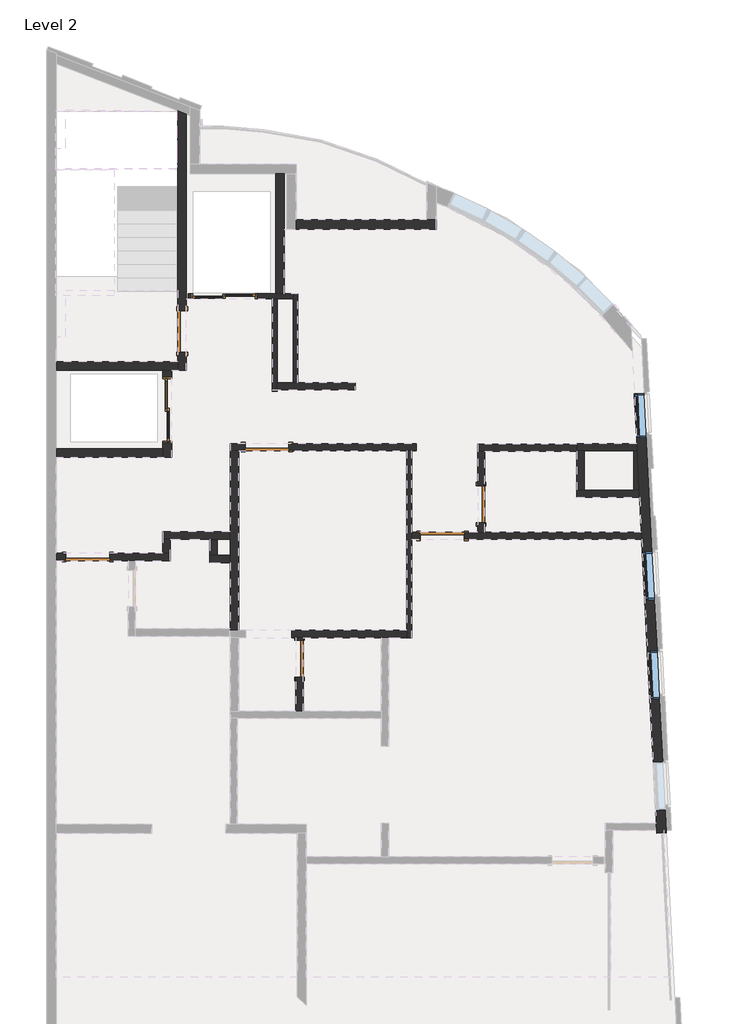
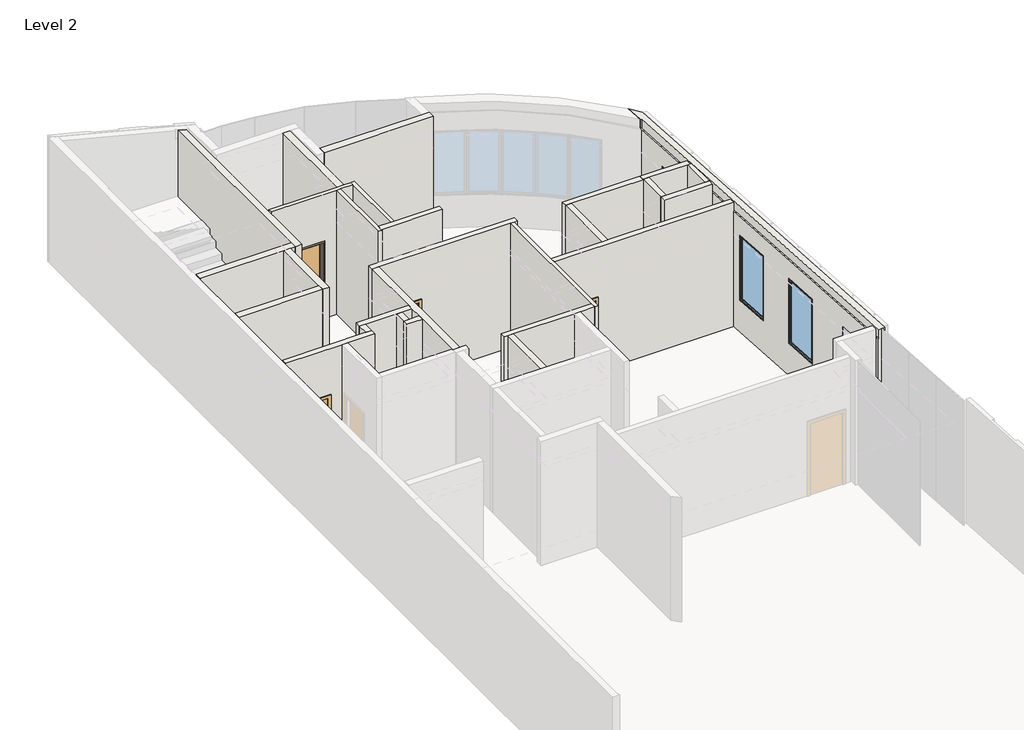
# One storey, part 3 of 5: 28 walls, 8 doors, 3 windows.
"""IFC4 building model written with IfcOpenShell, lengths in millimetres."""

from ifc_helpers import new_model, si_unit, frame, origin, place, context, project, spatial, polyline, circle_curve, outline, extrude, faceted_brep, transform, mapped, element, save
from ifc_brep_helpers import plane_surface, cylinder_surface, revolved_surface, advanced_brep
from components import m_single_flush_0762_x_2134mm_1533e4c5, m_single_flush_0762_x_2134mm_8c18b9de, m_single_flush_0864_x_2032mm_7823a673, m_single_flush_0915_x_2032mm_11c03dd0, m_single_flush_0915_x_2134mm_138fd904, sliding_door_2_panel_aus_f73f6a40, sliding_door_2_panel_aus_ee5771a8, m_fixed_0915_x_1830mm_5d6e8bc1, m_fixed_1000_x_1830mm_2_3397196e

model = new_model("IFC4")

# Units and contexts
model_context = context("Model", 3, world=origin())
ifc_project = project(units=[si_unit("LENGTHUNIT", "METRE", prefix="MILLI")], contexts=[model_context])

# Site, building, storey
site = spatial("IfcSite", under=ifc_project)
building = spatial("IfcBuilding", under=site)
storey = spatial("IfcBuildingStorey", under=building, Name="Level 2", Elevation=8000.0)

# Doors
placement = place(None, origin())
m_single_flush_0762_x_2134mm_shape = m_single_flush_0762_x_2134mm_1533e4c5(model_context)
element("IfcDoor", 1, ObjectType="M_Single-Flush : 0762 x 2134mm", at=placement, inside=storey, context=model_context, shape_type="MappedRepresentation", body=[
    mapped(m_single_flush_0762_x_2134mm_shape, transform((8794.9578779, 5730.2927029, 8000.0), x_axis=(0.0, -1.0, 0.0), y_axis=(1.0, 0.0, 0.0), z_axis=(0.0, 0.0, 1.0))),
])
m_single_flush_0762_x_2134mm_2_shape = m_single_flush_0762_x_2134mm_8c18b9de(model_context)
element("IfcDoor", 2, ObjectType="M_Single-Flush : 0762 x 2134mm", at=placement, inside=storey, context=model_context, shape_type="MappedRepresentation", body=[
    mapped(m_single_flush_0762_x_2134mm_2_shape, transform((5014.9578779, 2515.8778064, 8000.0), x_axis=(0.0, 1.0, 0.0), y_axis=(-1.0, 0.0, 0.0), z_axis=(0.0, 0.0, 1.0))),
])
m_single_flush_0864_x_2032mm_shape = m_single_flush_0864_x_2032mm_7823a673(model_context)
element("IfcDoor", 3, ObjectType="M_Single-Flush : 0864 x 2032mm", at=placement, inside=storey, context=model_context, shape_type="MappedRepresentation", body=[
    mapped(m_single_flush_0864_x_2032mm_shape, transform((2571.8607589, 9328.8748746, 8000.0), x_axis=(0.0, -1.0, 0.0), y_axis=(1.0, 0.0, 0.0), z_axis=(0.0, 0.0, 1.0))),
])
m_single_flush_0915_x_2032mm_shape = m_single_flush_0915_x_2032mm_11c03dd0(model_context)
element("IfcDoor", 4, ObjectType="M_Single-Flush : 0915 x 2032mm", at=placement, inside=storey, context=model_context, shape_type="MappedRepresentation", body=[
    mapped(m_single_flush_0915_x_2032mm_shape, transform((7987.4578779, 5074.2927029, 8000.0), x_axis=(-1.0, 0.0, 0.0), y_axis=(0.0, -1.0, 0.0), z_axis=(0.0, 0.0, 1.0))),
])
m_single_flush_0915_x_2134mm_shape = m_single_flush_0915_x_2134mm_138fd904(model_context)
element("IfcDoor", 5, ObjectType="M_Single-Flush : 0915 x 2134mm", at=placement, inside=storey, context=model_context, shape_type="MappedRepresentation", body=[
    mapped(m_single_flush_0915_x_2134mm_shape, transform((607.4578696, 4631.8830582, 8000.0), x_axis=(-1.0, 0.0, 0.0), y_axis=(0.0, -1.0, 0.0), z_axis=(0.0, 0.0, 1.0))),
])
element("IfcDoor", 6, ObjectType="M_Single-Flush : 0915 x 2134mm", at=placement, inside=storey, context=model_context, shape_type="MappedRepresentation", body=[
    mapped(m_single_flush_0915_x_2134mm_shape, transform((4337.4578779, 6919.2927825, 8000.0), x_axis=(-1.0, 0.0, 0.0), y_axis=(0.0, -1.0, 0.0), z_axis=(0.0, 0.0, 1.0))),
])
sliding_door_2_panel_aus_shape = sliding_door_2_panel_aus_f73f6a40(model_context)
element("IfcDoor", 7, ObjectType="Sliding Door - 2 Panel (AUS) : elavator door", at=placement, inside=storey, context=model_context, shape_type="MappedRepresentation", body=[
    mapped(sliding_door_2_panel_aus_shape, transform((2260.0654712, 7782.6328884, 8000.0), x_axis=(0.0, -1.0, 0.0), y_axis=(1.0, 0.0, 0.0), z_axis=(0.0, 0.0, 1.0))),
])
sliding_door_2_panel_aus_2_shape = sliding_door_2_panel_aus_ee5771a8(model_context)
element("IfcDoor", 8, ObjectType="Sliding Door - 2 Panel (AUS) : elavator door", at=placement, inside=storey, context=model_context, shape_type="MappedRepresentation", body=[
    mapped(sliding_door_2_panel_aus_2_shape, transform((3525.434997, 10056.8748959, 8000.0), x_axis=(-1.0, 0.0, 0.0), y_axis=(0.0, -1.0, 0.0), z_axis=(0.0, 0.0, 1.0))),
])

# Walls
element("IfcWall", 9, ObjectType="Generic - 15cm-granit&gypsum", at=placement, inside=storey, context=model_context, shape_type="SweptSolid", body=[
    extrude(outline(polyline([(5349.2927029, 10134.0), (5349.2927029, 8000.0), (5149.2927029, 8000.0), (5149.2927029, 11500.0), (6830.3684627, 11500.0), (6830.3684627, 8000.0), (6111.2927029, 8000.0), (6111.2927029, 10134.0), (5349.2927029, 10134.0)])), frame((8719.9578779, 0.0, 0.0), z_axis=(1.0, 0.0, 0.0), x_axis=(0.0, 1.0, 0.0)), (0.0, 0.0, 1.0), 150.0),
])
element("IfcWall", 10, ObjectType="Generic - 15cm-gypsu-2boith", at=placement, inside=storey, context=model_context, shape_type="Brep", body=[
    faceted_brep([(12034.2942913, 6994.2927825, 8000.0), (10782.6929286, 6994.2927825, 8000.0), (10782.6929286, 6994.2927825, 11500.0), (12034.2942913, 6994.2927825, 11500.0), (12041.9294162, 6844.2927825, 8000.0), (12041.9294162, 6844.2927825, 11500.0), (11974.9265269, 6844.2927825, 11500.0), (10938.049349, 6844.2927825, 11500.0), (10788.049349, 6844.2927825, 11500.0), (10782.6929286, 6844.2927825, 11500.0), (10782.6929286, 6844.2927825, 8000.0), (10788.049349, 6844.2927825, 8000.0), (10938.049349, 6844.2927825, 8000.0), (11974.9265269, 6844.2927825, 8000.0), (10782.6929286, 6980.3684627, 8000.0), (10782.6929286, 6980.3684627, 11500.0)], [[[0, 1, 2, 3]], [[4, 5, 6, 7, 8, 9, 10, 11, 12, 13]], [[1, 0, 4, 13, 12, 11, 10, 14]], [[2, 1, 14, 10, 9, 15]], [[3, 2, 15, 9, 8, 7, 6, 5]], [[0, 3, 5, 4]]]),
])
element("IfcWall", 11, ObjectType="Generic - 15cm-granit&gypsum", at=placement, inside=storey, context=model_context, shape_type="Brep", body=[
    faceted_brep([(7529.9578779, 5149.2927029, 10032.0), (7529.9578779, 5149.2927029, 8000.0), (7349.9578779, 5149.2927029, 8000.0), (7349.9578779, 5149.2927029, 11500.0), (8719.9578779, 5149.2927029, 11500.0), (8869.9578779, 5149.2927029, 11500.0), (12128.2063311, 5149.2927029, 11500.0), (12128.2063311, 5149.2927029, 8000.0), (8869.9578779, 5149.2927029, 8000.0), (8719.9578779, 5149.2927029, 8000.0), (8444.9578779, 5149.2927029, 8000.0), (8444.9578779, 5149.2927029, 10032.0), (7349.9578779, 4999.2927029, 8000.0), (7529.9578779, 4999.2927029, 8000.0), (7529.9578779, 4999.2927029, 10032.0), (8444.9578779, 4999.2927029, 10032.0), (8444.9578779, 4999.2927029, 8000.0), (12135.8414559, 4999.2927029, 8000.0), (12135.8414559, 4999.2927029, 11500.0), (7349.9578779, 4999.2927029, 11500.0)], [[[0, 1, 2, 3, 4, 5, 6, 7, 8, 9, 10, 11]], [[12, 13, 14, 15, 16, 17, 18, 19]], [[2, 1, 13, 12]], [[10, 9, 8, 7, 17, 16]], [[6, 5, 4, 3, 19, 18]], [[7, 6, 18, 17]], [[3, 2, 12, 19]], [[14, 13, 1, 0]], [[15, 14, 0, 11]], [[16, 15, 11, 10]]]),
])
element("IfcWall", 12, ObjectType="Generic - 10cm-gypsu-2boith", at=placement, inside=storey, context=model_context, shape_type="Brep", body=[
    faceted_brep([(7249.9578779, 6844.2927825, 8000.0), (7249.9578779, 3106.8778064, 8000.0), (7249.9578779, 2956.8778064, 8000.0), (7249.9578779, 2956.8778064, 11500.0), (7249.9578779, 3106.8778064, 11500.0), (7249.9578779, 6844.2927825, 11500.0), (7349.9578779, 6844.2927825, 8000.0), (7349.9578779, 6844.2927825, 11500.0), (7349.9578779, 5149.2927029, 11500.0), (7349.9578779, 4999.2927029, 11500.0), (7349.9578779, 2956.8778064, 11500.0), (7349.9578779, 2956.8778064, 8000.0), (7349.9578779, 4999.2927029, 8000.0), (7349.9578779, 5149.2927029, 8000.0)], [[[0, 1, 2, 3, 4, 5]], [[6, 7, 8, 9, 10, 11, 12, 13]], [[2, 1, 0, 6, 13, 12, 11]], [[5, 4, 3, 10, 9, 8, 7]], [[3, 2, 11, 10]], [[0, 5, 7, 6]]]),
])
element("IfcWall", 13, ObjectType="Generic - 15cm-granit&gypsum", at=placement, inside=storey, context=model_context, shape_type="Brep", body=[
    faceted_brep([(7249.9578779, 3106.8778064, 8000.0), (4849.9578779, 3106.8778064, 8000.0), (4849.9578779, 3106.8778064, 11500.0), (7249.9578779, 3106.8778064, 11500.0), (7249.9578779, 2956.8778064, 8000.0), (7249.9578779, 2956.8778064, 11500.0), (6869.9578779, 2956.8778064, 11500.0), (6719.9578779, 2956.8778064, 11500.0), (5089.9578779, 2956.8778064, 11500.0), (4939.9578779, 2956.8778064, 11500.0), (4849.9578779, 2956.8778064, 11500.0), (4849.9578779, 2956.8778064, 8000.0), (4939.9578779, 2956.8778064, 8000.0), (5089.9578779, 2956.8778064, 8000.0), (6719.9578779, 2956.8778064, 8000.0), (6869.9578779, 2956.8778064, 8000.0)], [[[0, 1, 2, 3]], [[4, 5, 6, 7, 8, 9, 10, 11, 12, 13, 14, 15]], [[1, 0, 4, 15, 14, 13, 12, 11]], [[2, 1, 11, 10]], [[3, 2, 10, 9, 8, 7, 6, 5]], [[0, 3, 5, 4]]]),
])
element("IfcWall", 14, ObjectType="Generic - 18cm-gypsu-2boith 2", at=placement, inside=storey, context=model_context, shape_type="Brep", body=[
    faceted_brep([(3569.9578779, 6844.2927825, 8000.0), (3569.9578779, 5156.8860701, 8000.0), (3569.9578779, 5006.8860701, 8000.0), (3569.9578779, 4666.8864855, 8000.0), (3569.9578779, 4516.8864855, 8000.0), (3569.9578779, 3106.8778064, 8000.0), (3569.9578779, 3106.8778064, 11500.0), (3569.9578779, 4516.8864855, 11500.0), (3569.9578779, 4666.8864855, 11500.0), (3569.9578779, 5006.8860701, 11500.0), (3569.9578779, 5156.8860701, 11500.0), (3569.9578779, 6844.2927825, 11500.0), (3749.9578779, 6844.2927825, 8000.0), (3749.9578779, 6844.2927825, 11500.0), (3749.9578779, 3106.8778064, 11500.0), (3749.9578779, 3106.8778064, 8000.0)], [[[0, 1, 2, 3, 4, 5, 6, 7, 8, 9, 10, 11]], [[12, 13, 14, 15]], [[5, 4, 3, 2, 1, 0, 12, 15]], [[11, 10, 9, 8, 7, 6, 14, 13]], [[6, 5, 15, 14]], [[0, 11, 13, 12]]]),
])
element("IfcWall", 15, ObjectType="Generic - 15cm-gypsu-2boith", at=placement, inside=storey, context=model_context, shape_type="Brep", body=[
    faceted_brep([(4549.2779066, 8112.262158, 8000.0), (6174.9402277, 8112.262158, 8000.0), (6174.9402277, 8112.262158, 11500.0), (4549.2779066, 8112.262158, 11500.0), (4549.2779066, 8262.262158, 8000.0), (4549.2779066, 8262.262158, 11500.0), (4879.9402277, 8262.262158, 11500.0), (4979.9402277, 8262.262158, 11500.0), (6174.9402277, 8262.262158, 11500.0), (6174.9402277, 8262.262158, 8000.0), (4979.9402277, 8262.262158, 8000.0), (4879.9402277, 8262.262158, 8000.0)], [[[0, 1, 2, 3]], [[4, 5, 6, 7, 8, 9, 10, 11]], [[1, 0, 4, 11, 10, 9]], [[2, 1, 9, 8]], [[3, 2, 8, 7, 6, 5]], [[0, 3, 5, 4]]]),
])
element("IfcWall", 16, ObjectType="Generic - 10cm-gypsu-2boith", at=placement, inside=storey, context=model_context, shape_type="Brep", body=[
    faceted_brep([(4549.2779066, 8082.262158, 8000.0), (4549.2779066, 8112.262158, 8000.0), (4549.2779066, 8262.262158, 8000.0), (4549.2779066, 10006.8748959, 8000.0), (4549.2779066, 10006.8748959, 11500.0), (4549.2779066, 8262.262158, 11500.0), (4549.2779066, 8112.262158, 11500.0), (4549.2779066, 8082.262158, 11500.0), (4449.2779066, 8082.262158, 8000.0), (4449.2779066, 8082.262158, 11500.0), (4449.2779066, 10006.8748959, 11500.0), (4449.2779066, 10006.8748959, 8000.0)], [[[0, 1, 2, 3, 4, 5, 6, 7]], [[8, 9, 10, 11]], [[3, 2, 1, 0, 8, 11]], [[7, 6, 5, 4, 10, 9]], [[0, 7, 9, 8]], [[4, 3, 11, 10]]]),
])
element("IfcWall", 17, ObjectType="Generic - 10cm-gypsu-2boith", at=placement, inside=storey, context=model_context, shape_type="Brep", body=[
    faceted_brep([(4879.9402277, 10106.8748959, 8000.0), (4879.9402277, 10006.8748959, 8000.0), (4879.9402277, 8262.262158, 8000.0), (4879.9402277, 8262.262158, 11500.0), (4879.9402277, 10006.8748959, 11500.0), (4879.9402277, 10106.8748959, 11500.0), (4979.9402277, 10106.8748959, 8000.0), (4979.9402277, 10106.8748959, 11500.0), (4979.9402277, 8262.262158, 11500.0), (4979.9402277, 8262.262158, 8000.0)], [[[0, 1, 2, 3, 4, 5]], [[6, 7, 8, 9]], [[2, 1, 0, 6, 9]], [[5, 4, 3, 8, 7]], [[3, 2, 9, 8]], [[0, 5, 7, 6]]]),
])
element("IfcWall", 18, ObjectType="Generic - 10cm-gypsu-2boith", at=placement, inside=storey, context=model_context, shape_type="Brep", body=[
    faceted_brep([(2699.9587442, 10106.8748959, 8000.0), (2699.9587442, 10106.8748959, 11500.0), (4519.9587688, 10106.8748959, 11500.0), (4699.9587688, 10106.8748959, 11500.0), (4879.9402277, 10106.8748959, 11500.0), (4879.9402277, 10106.8748959, 8000.0), (4699.9587688, 10106.8748959, 8000.0), (4519.9587688, 10106.8748959, 8000.0), (4129.6769958, 10106.8748959, 8000.0), (4129.6769958, 10106.8748959, 10183.0), (2749.6769958, 10106.8748959, 10183.0), (2749.6769958, 10106.8748959, 8000.0), (2699.9587442, 10006.8748959, 11500.0), (2699.9587442, 10006.8748959, 8000.0), (2749.6769958, 10006.8748959, 8000.0), (2749.6769958, 10006.8748959, 10183.0), (4129.6769958, 10006.8748959, 10183.0), (4129.6769958, 10006.8748959, 8000.0), (4449.2779066, 10006.8748959, 8000.0), (4549.2779066, 10006.8748959, 8000.0), (4879.9402277, 10006.8748959, 8000.0), (4879.9402277, 10006.8748959, 11500.0), (4549.2779066, 10006.8748959, 11500.0), (4449.2779066, 10006.8748959, 11500.0)], [[[0, 1, 2, 3, 4, 5, 6, 7, 8, 9, 10, 11]], [[12, 13, 14, 15, 16, 17, 18, 19, 20, 21, 22, 23]], [[13, 0, 11, 14]], [[5, 20, 19, 18, 17, 8, 7, 6]], [[1, 0, 13, 12]], [[4, 3, 2, 1, 12, 23, 22, 21]], [[5, 4, 21, 20]], [[16, 9, 8, 17]], [[9, 16, 15, 10]], [[10, 15, 14, 11]]]),
])
element("IfcWall", 19, ObjectType="Generic - 18cm-gypsu-2boith 2", at=placement, inside=storey, context=model_context, shape_type="Brep", body=[
    faceted_brep([(2661.8607589, 8516.8748746, 8000.0), (2661.8607589, 8896.8748746, 8000.0), (2661.8607589, 8896.8748746, 10032.0), (2661.8607589, 9760.8748746, 10032.0), (2661.8607589, 9760.8748746, 8000.0), (2661.8607589, 13848.9694672, 8000.0), (2661.8607589, 13848.9694672, 11500.0), (2661.8607589, 8516.8748746, 11500.0), (2481.8607589, 8896.8748746, 10032.0), (2481.8607589, 8896.8748746, 8000.0), (2481.8607589, 8696.8748746, 8000.0), (2481.8607589, 8516.8748746, 8000.0), (2481.8607589, 8516.8748746, 11500.0), (2481.8607589, 8696.8748746, 11500.0), (2481.8607589, 13918.8001868, 11500.0), (2481.8607589, 13918.8001868, 8000.0), (2481.8607589, 9760.8748746, 8000.0), (2481.8607589, 9760.8748746, 10032.0)], [[[0, 1, 2, 3, 4, 5, 6, 7]], [[8, 9, 10, 11, 12, 13, 14, 15, 16, 17]], [[16, 15, 5, 4]], [[11, 10, 9, 1, 0]], [[7, 6, 14, 13, 12]], [[6, 5, 15, 14]], [[0, 7, 12, 11]], [[2, 1, 9, 8]], [[3, 2, 8, 17]], [[4, 3, 17, 16]]]),
])
element("IfcWall", 20, ObjectType="Generic - 18cm-gypsu-2boith 2", at=placement, inside=storey, context=model_context, shape_type="SweptSolid", body=[
    extrude(outline(polyline([(-50.0421304, 8696.8748746), (2481.8607589, 8696.8748746), (2481.8607589, 8516.8748746), (-50.0421304, 8516.8748746), (-50.0421304, 8696.8748746)])), frame((0.0, 0.0, 8000.0), z_axis=(0.0, 0.0, 1.0), x_axis=(1.0, 0.0, 0.0)), (0.0, 0.0, 1.0), 3500.0),
])
element("IfcWall", 21, ObjectType="Generic - 18cm-gypsu-2boith 2", at=placement, inside=storey, context=model_context, shape_type="Brep", body=[
    faceted_brep([(2170.0654712, 6706.8748838, 11500.0), (2170.0654712, 6886.8748838, 11500.0), (2170.0654712, 8506.8748906, 11500.0), (2170.0654712, 8506.8748906, 8000.0), (2170.0654712, 8386.8748872, 8000.0), (2170.0654712, 8386.8748872, 10183.0), (2170.0654712, 7006.8748872, 10183.0), (2170.0654712, 7006.8748872, 8000.0), (2170.0654712, 6886.8748838, 8000.0), (2170.0654712, 6706.8748838, 8000.0), (2350.0654712, 8506.8748906, 11500.0), (2350.0654712, 6706.8748838, 11500.0), (2350.0654712, 6706.8748838, 8000.0), (2350.0654712, 7006.8748872, 8000.0), (2350.0654712, 7006.8748872, 10183.0), (2350.0654712, 8386.8748872, 10183.0), (2350.0654712, 8386.8748872, 8000.0), (2350.0654712, 8506.8748906, 8000.0)], [[[0, 1, 2, 3, 4, 5, 6, 7, 8, 9]], [[10, 11, 12, 13, 14, 15, 16, 17]], [[3, 17, 16, 4]], [[12, 9, 8, 7, 13]], [[2, 1, 0, 11, 10]], [[3, 2, 10, 17]], [[0, 9, 12, 11]], [[15, 5, 4, 16]], [[5, 15, 14, 6]], [[6, 14, 13, 7]]]),
])
element("IfcWall", 22, ObjectType="Generic - 18cm-gypsu-2boith 2", at=placement, inside=storey, context=model_context, shape_type="SweptSolid", body=[
    extrude(outline(polyline([(-50.0421304, 6886.8748838), (2170.0654712, 6886.8748838), (2170.0654712, 6706.8748838), (-50.0421304, 6706.8748838), (-50.0421304, 6886.8748838)])), frame((0.0, 0.0, 8000.0), z_axis=(0.0, 0.0, 1.0), x_axis=(1.0, 0.0, 0.0)), (0.0, 0.0, 1.0), 3500.0),
])
element("IfcWall", 23, ObjectType="Generic - 18cm-gypsu-2boith 2", at=placement, inside=storey, context=model_context, shape_type="SweptSolid", body=[
    extrude(outline(polyline([(4519.9587688, 10106.8748959), (4519.9587688, 12611.9409286), (4699.9587688, 12611.9409286), (4699.9587688, 10106.8748959), (4519.9587688, 10106.8748959)])), frame((0.0, 0.0, 8000.0), z_axis=(0.0, 0.0, 1.0), x_axis=(1.0, 0.0, 0.0)), (0.0, 0.0, 1.0), 3500.0),
])
element("IfcWall", 24, ObjectType="Generic - 15cm-granit&gypsum", at=placement, inside=storey, context=model_context, shape_type="Brep", body=[
    faceted_brep([(12077.3702251, 6025.0705769, 8000.0), (12074.9265269, 6025.0705769, 8000.0), (11974.9265269, 6025.0705769, 8000.0), (10938.049349, 6025.0705769, 8000.0), (10788.049349, 6025.0705769, 8000.0), (10788.049349, 6025.0705769, 11500.0), (10938.049349, 6025.0705769, 11500.0), (11974.9265269, 6025.0705769, 11500.0), (12074.9265269, 6025.0705769, 11500.0), (12077.3702251, 6025.0705769, 11500.0), (12077.3702251, 5875.0705769, 8000.0), (12077.3702251, 5875.0705769, 11500.0), (10788.049349, 5875.0705769, 11500.0), (10788.049349, 5875.0705769, 8000.0)], [[[0, 1, 2, 3, 4, 5, 6, 7, 8, 9]], [[10, 11, 12, 13]], [[4, 3, 2, 1, 0, 10, 13]], [[9, 8, 7, 6, 5, 12, 11]], [[0, 9, 11, 10]], [[5, 4, 13, 12]]]),
])
element("IfcWall", 25, ObjectType="Generic - 15cm-granit&gypsum", at=placement, inside=storey, context=model_context, shape_type="SweptSolid", body=[
    extrude(outline(polyline([(10938.049349, 6844.2927825), (10938.049349, 6025.0705769), (10788.049349, 6025.0705769), (10788.049349, 6844.2927825), (10938.049349, 6844.2927825)])), frame((0.0, 0.0, 8000.0), z_axis=(0.0, 0.0, 1.0), x_axis=(1.0, 0.0, 0.0)), (0.0, 0.0, 1.0), 3500.0),
])
element("IfcWall", 26, ObjectType="Generic - 10cm-gypsu-2boith", at=placement, inside=storey, context=model_context, shape_type="Brep", body=[
    faceted_brep([(12074.9265269, 6025.0705769, 8000.0), (12074.9265269, 6844.2927825, 8000.0), (12074.9265269, 6844.2927825, 11500.0), (12074.9265269, 6025.0705769, 11500.0), (11974.9265269, 6025.0705769, 8000.0), (11974.9265269, 6025.0705769, 11500.0), (11974.9265269, 6844.2927825, 11500.0), (11974.9265269, 6844.2927825, 8000.0), (12041.9294162, 6844.2927825, 8000.0), (12041.9294162, 6844.2927825, 11500.0)], [[[0, 1, 2, 3]], [[4, 5, 6, 7]], [[1, 0, 4, 7, 8]], [[3, 2, 9, 6, 5]], [[0, 3, 5, 4]], [[2, 1, 8, 7, 6, 9]]]),
])
element("IfcWall", 27, ObjectType="Generic - 15cm-granit&gypsum", at=placement, inside=storey, context=model_context, shape_type="SweptSolid", body=[
    extrude(outline(polyline([(2956.8778064, 8000.0), (2896.8778064, 8000.0), (2896.8778064, 10134.0), (2134.8778064, 10134.0), (2134.8778064, 8000.0), (1426.8778064, 8000.0), (1426.8778064, 11500.0), (2956.8778064, 11500.0), (2956.8778064, 8000.0)])), frame((4939.9578779, 0.0, 0.0), z_axis=(1.0, 0.0, 0.0), x_axis=(0.0, 1.0, 0.0)), (0.0, 0.0, 1.0), 150.0),
])
element("IfcWall", 28, ObjectType="Generic - 15cm-granit&gypsum", at=placement, inside=storey, context=model_context, shape_type="Brep", body=[
    faceted_brep([(-50.0421304, 4556.8830582, 8000.0), (149.9578696, 4556.8830582, 8000.0), (149.9578696, 4556.8830582, 10134.0), (1064.9578696, 4556.8830582, 10134.0), (1064.9578696, 4556.8830582, 8000.0), (1449.9578776, 4556.8830582, 8000.0), (1599.9578776, 4556.8830582, 8000.0), (2319.9578779, 4556.8830582, 8000.0), (2319.9578779, 4556.8830582, 11500.0), (1599.9578776, 4556.8830582, 11500.0), (1449.9578776, 4556.8830582, 11500.0), (-50.0421304, 4556.8830582, 11500.0), (149.9578696, 4706.8830582, 10134.0), (149.9578696, 4706.8830582, 8000.0), (-50.0421304, 4706.8830582, 8000.0), (-50.0421304, 4706.8830582, 11500.0), (2169.9578779, 4706.8830582, 11500.0), (2319.9578779, 4706.8830582, 11500.0), (2319.9578779, 4706.8830582, 8000.0), (2169.9578779, 4706.8830582, 8000.0), (1064.9578696, 4706.8830582, 8000.0), (1064.9578696, 4706.8830582, 10134.0)], [[[0, 1, 2, 3, 4, 5, 6, 7, 8, 9, 10, 11]], [[12, 13, 14, 15, 16, 17, 18, 19, 20, 21]], [[14, 13, 1, 0]], [[20, 19, 18, 7, 6, 5, 4]], [[11, 10, 9, 8, 17, 16, 15]], [[0, 11, 15, 14]], [[8, 7, 18, 17]], [[2, 1, 13, 12]], [[3, 2, 12, 21]], [[4, 3, 21, 20]]]),
])
element("IfcWall", 29, ObjectType="Generic - 15cm-granit&gypsum", at=placement, inside=storey, context=model_context, shape_type="Brep", body=[
    faceted_brep([(2169.9578779, 5006.8860701, 8000.0), (2319.9578779, 5006.8860701, 8000.0), (3569.9578779, 5006.8860701, 8000.0), (3569.9578779, 5006.8860701, 11500.0), (2319.9578779, 5006.8860701, 11500.0), (2169.9578779, 5006.8860701, 11500.0), (2169.9578779, 5156.8860701, 8000.0), (2169.9578779, 5156.8860701, 11500.0), (3569.9578779, 5156.8860701, 11500.0), (3569.9578779, 5156.8860701, 8000.0)], [[[0, 1, 2, 3, 4, 5]], [[6, 7, 8, 9]], [[2, 1, 0, 6, 9]], [[5, 4, 3, 8, 7]], [[0, 5, 7, 6]], [[3, 2, 9, 8]]]),
])
element("IfcWall", 30, ObjectType="Generic - 15cm-granit&gypsum", at=placement, inside=storey, context=model_context, shape_type="SweptSolid", body=[
    extrude(outline(polyline([(2319.9578779, 5006.8860701), (2319.9578779, 4706.8830582), (2169.9578779, 4706.8830582), (2169.9578779, 5006.8860701), (2319.9578779, 5006.8860701)])), frame((0.0, 0.0, 8000.0), z_axis=(0.0, 0.0, 1.0), x_axis=(1.0, 0.0, 0.0)), (0.0, 0.0, 1.0), 3500.0),
])
element("IfcWall", 31, ObjectType="Generic - 15cm-granit&gypsum", at=placement, inside=storey, context=model_context, shape_type="Brep", body=[
    faceted_brep([(3149.9574416, 4516.8864855, 8000.0), (3569.9578779, 4516.8864855, 8000.0), (3569.9578779, 4516.8864855, 11500.0), (3149.9574416, 4516.8864855, 11500.0), (3149.9574416, 4666.8864855, 8000.0), (3149.9574416, 4666.8864855, 11500.0), (3299.9574416, 4666.8864855, 11500.0), (3569.9578779, 4666.8864855, 11500.0), (3569.9578779, 4666.8864855, 8000.0), (3299.9574416, 4666.8864855, 8000.0)], [[[0, 1, 2, 3]], [[4, 5, 6, 7, 8, 9]], [[1, 0, 4, 9, 8]], [[3, 2, 7, 6, 5]], [[2, 1, 8, 7]], [[0, 3, 5, 4]]]),
])
element("IfcWall", 32, ObjectType="Generic - 15cm-granit&gypsum", at=placement, inside=storey, context=model_context, shape_type="SweptSolid", body=[
    extrude(outline(polyline([(3149.9574416, 4666.8864855), (3149.9574416, 4986.8860701), (3299.9574416, 4986.8860701), (3299.9574416, 4666.8864855), (3149.9574416, 4666.8864855)])), frame((0.0, 0.0, 8000.0), z_axis=(0.0, 0.0, 1.0), x_axis=(1.0, 0.0, 0.0)), (0.0, 0.0, 1.0), 3500.0),
])
element("IfcWall", 33, ObjectType="Generic - 15cm-gypsu-2boith", at=placement, inside=storey, context=model_context, shape_type="Brep", body=[
    faceted_brep([(3879.9578779, 6994.2927825, 10134.0), (3879.9578779, 6994.2927825, 8000.0), (3569.9578779, 6994.2927825, 8000.0), (3569.9578779, 6994.2927825, 11500.0), (7439.9578779, 6994.2927825, 11500.0), (7439.9578779, 6994.2927825, 8000.0), (4794.9578779, 6994.2927825, 8000.0), (4794.9578779, 6994.2927825, 10134.0), (3569.9578779, 6844.2927825, 8000.0), (3749.9578779, 6844.2927825, 8000.0), (3879.9578779, 6844.2927825, 8000.0), (3879.9578779, 6844.2927825, 10134.0), (4794.9578779, 6844.2927825, 10134.0), (4794.9578779, 6844.2927825, 8000.0), (7249.9578779, 6844.2927825, 8000.0), (7349.9578779, 6844.2927825, 8000.0), (7439.9578779, 6844.2927825, 8000.0), (7439.9578779, 6844.2927825, 11500.0), (7349.9578779, 6844.2927825, 11500.0), (7249.9578779, 6844.2927825, 11500.0), (3749.9578779, 6844.2927825, 11500.0), (3569.9578779, 6844.2927825, 11500.0)], [[[0, 1, 2, 3, 4, 5, 6, 7]], [[8, 9, 10, 11, 12, 13, 14, 15, 16, 17, 18, 19, 20, 21]], [[6, 5, 16, 15, 14, 13]], [[2, 1, 10, 9, 8]], [[4, 3, 21, 20, 19, 18, 17]], [[5, 4, 17, 16]], [[11, 10, 1, 0]], [[12, 11, 0, 7]], [[13, 12, 7, 6]], [[3, 2, 8, 21]]]),
])
element("IfcWall", 34, ObjectType="Generic - 15cm-granit&gypsum", at=placement, inside=storey, context=model_context, shape_type="Brep", body=[
    faceted_brep([(8719.9578779, 6830.3684627, 8000.0), (8869.9578779, 6830.3684627, 8000.0), (10782.6929286, 6830.3684627, 8000.0), (10782.6929286, 6830.3684627, 11500.0), (8869.9578779, 6830.3684627, 11500.0), (8719.9578779, 6830.3684627, 11500.0), (8719.9578779, 6980.3684627, 8000.0), (8719.9578779, 6980.3684627, 11500.0), (10782.6929286, 6980.3684627, 11500.0), (10782.6929286, 6980.3684627, 8000.0), (10782.6929286, 6844.2927825, 8000.0), (10782.6929286, 6844.2927825, 11500.0)], [[[0, 1, 2, 3, 4, 5]], [[6, 7, 8, 9]], [[2, 1, 0, 6, 9, 10]], [[3, 2, 10, 9, 8, 11]], [[5, 4, 3, 11, 8, 7]], [[0, 5, 7, 6]]]),
])
element("IfcWall", 35, ObjectType="Generic - 20cm-gypsum", at=placement, inside=storey, context=model_context, shape_type="Brep", body=[
    faceted_brep([(4949.6116933, 11454.5991251, 8000.0), (7862.3072504, 11454.5991251, 8000.0), (7862.3072504, 11454.5991251, 11500.0), (4949.6116933, 11454.5991251, 11500.0), (4949.6116933, 11654.5991251, 8000.0), (4949.6116933, 11654.5991251, 11500.0), (7662.3072504, 11654.5991251, 11500.0), (7862.3072504, 11654.5991251, 11500.0), (7862.3072504, 11654.5991251, 8000.0), (7662.3072504, 11654.5991251, 8000.0)], [[[0, 1, 2, 3]], [[4, 5, 6, 7, 8, 9]], [[1, 0, 4, 9, 8]], [[3, 2, 7, 6, 5]], [[2, 1, 8, 7]], [[0, 3, 5, 4]]]),
])
element("IfcWall", 36, ObjectType="Generic - 20cm-gypsum", at=placement, inside=storey, context=model_context, shape_type="AdvancedBrep", body=[
    advanced_brep(
    [(11908.3121492, 9469.3435074, 8000.0), (11936.5482631, 8914.6155682, 8000.0), (12034.2942913, 6994.2927825, 8000.0), (12041.9294162, 6844.2927825, 8000.0), (12128.2063311, 5149.2927029, 8000.0), (12135.8414559, 4999.2927029, 8000.0), (12446.8232818, -1110.2699756, 8000.0), (12446.8232818, -1110.2699756, 11259.0), (11936.5482631, 8914.6155682, 11259.0), (11933.8152789, 8968.3078963, 11259.0), (11933.8152789, 8968.3078963, 11500.0), (11908.3121492, 9469.3435074, 11500.0), (11908.3121492, 9469.3435074, 10745.0), (11910.4512496, 9427.3186475, 10745.0), (11910.4512496, 9427.3186475, 10695.0), (11908.3121492, 9469.3435074, 10695.0), (11908.3121492, 9469.3435074, 8925.0), (11910.4512496, 9427.3186475, 8925.0), (11910.4512496, 9427.3186475, 8875.0), (11908.3121492, 9469.3435074, 8875.0), (12422.6623613, -635.6034658, 8900.0), (12371.8273404, 363.1035987, 8900.0), (12371.8273404, 363.1035987, 10730.0), (12422.6623613, -635.6034658, 10730.0), (12305.2334631, 1671.4098532, 8900.0), (12254.3984422, 2670.1169177, 8900.0), (12254.3984422, 2670.1169177, 10730.0), (12305.2334631, 1671.4098532, 10730.0), (12200.0049698, 3738.7334766, 8900.0), (12149.1699489, 4737.4405411, 8900.0), (12149.1699489, 4737.4405411, 10730.0), (12200.0049698, 3738.7334766, 10730.0), (12028.2494319, 7113.0503572, 8900.0), (11981.7353878, 8026.8673212, 8900.0), (11981.7353878, 8026.8673212, 10730.0), (12028.2494319, 7113.0503572, 10730.0), (12646.5646947, -1100.1029714, 8000.0), (12122.2974145, 9199.675158, 8000.0), (12122.2974145, 9199.675158, 8875.0), (12124.5482533, 9155.45508, 8875.0), (12124.5482533, 9155.45508, 8925.0), (12122.2974145, 9199.675158, 8925.0), (12122.2974145, 9199.675158, 10695.0), (12124.5482533, 9155.45508, 10695.0), (12124.5482533, 9155.45508, 10745.0), (12122.2974145, 9199.675158, 10745.0), (12122.2974145, 9199.675158, 11500.0), (12646.5646947, -1100.1029714, 11500.0), (12571.5687533, 373.2706029, 8900.0), (12622.4037742, -625.4364616, 8900.0), (12622.4037742, -625.4364616, 10730.0), (12571.5687533, 373.2706029, 10730.0), (12454.1398551, 2680.2839218, 8900.0), (12504.974876, 1681.5768573, 8900.0), (12504.974876, 1681.5768573, 10730.0), (12454.1398551, 2680.2839218, 10730.0), (12348.9113618, 4747.6075453, 8900.0), (12399.7463827, 3748.9004808, 8900.0), (12399.7463827, 3748.9004808, 10730.0), (12348.9113618, 4747.6075453, 10730.0), (12181.4768007, 8037.0343254, 8900.0), (12227.9908448, 7123.2173614, 8900.0), (12227.9908448, 7123.2173614, 10730.0), (12181.4768007, 8037.0343254, 10730.0), (12476.7844937, -1108.7449249, 11500.0), (12476.7844937, -1108.7449249, 11259.0), (11966.0468245, 8925.2298708, 11500.0), (11966.0468245, 8925.2298708, 11259.0)],
    [
        (0, 1),
        (1, 2),
        (2, 3),
        (3, 4),
        (4, 5),
        (5, 6),
        (6, 7),
        (7, 8),
        (8, 9),
        (9, 10),
        (10, 11),
        (11, 12),
        (12, 13),
        (13, 14),
        (14, 15),
        (15, 16),
        (16, 17),
        (17, 18),
        (18, 19),
        (19, 0),
        (20, 21),
        (21, 22),
        (22, 23),
        (23, 20),
        (24, 25),
        (25, 26),
        (26, 27),
        (27, 24),
        (28, 29),
        (29, 30),
        (30, 31),
        (31, 28),
        (32, 33),
        (33, 34),
        (34, 35),
        (35, 32),
        (36, 37),
        (37, 38),
        (38, 39),
        (39, 40),
        (40, 41),
        (41, 42),
        (42, 43),
        (43, 44),
        (44, 45),
        (45, 46),
        (46, 47),
        (47, 36),
        (48, 49),
        (49, 50),
        (50, 51),
        (51, 48),
        (52, 53),
        (53, 54),
        (54, 55),
        (55, 52),
        (56, 57),
        (57, 58),
        (58, 59),
        (59, 56),
        (60, 61),
        (61, 62),
        (62, 63),
        (63, 60),
        (48, 21),
        (20, 49),
        (51, 22),
        (50, 23),
        (52, 25),
        (24, 53),
        (55, 26),
        (54, 27),
        (56, 29),
        (28, 57),
        (59, 30),
        (58, 31),
        (60, 33),
        (32, 61),
        (63, 34),
        (62, 35),
        (0, 37, circle_curve(frame((4535.6080259, 3399.2748166, 8000.0), z_axis=(0.0, 0.0, -1.0), x_axis=(0.7954529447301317, 0.6060153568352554, 0.0)), 9550.0)),
        (36, 6),
        (47, 64),
        (64, 65),
        (65, 7),
        (46, 11, circle_curve(frame((4535.6080259, 3399.2748166, 11500.0), z_axis=(0.0, 0.0, 1.0), x_axis=(0.7954529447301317, 0.6060153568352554, 0.0)), 9550.0)),
        (10, 66, circle_curve(frame((4535.6080259, 3399.2748166, 11500.0), z_axis=(0.0, 0.0, -1.0), x_axis=(1.0, 0.0, 0.0)), 9260.0)),
        (66, 64),
        (45, 12, circle_curve(frame((4535.6080259, 3399.2748166, 10745.0), z_axis=(0.0, 0.0, 1.0), x_axis=(0.7954529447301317, 0.6060153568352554, 0.0)), 9550.0)),
        (19, 38, circle_curve(frame((4535.6080259, 3399.2748166, 8875.0), z_axis=(0.0, 0.0, -1.0), x_axis=(0.7954529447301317, 0.6060153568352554, 0.0)), 9550.0)),
        (41, 16, circle_curve(frame((4535.6080259, 3399.2748166, 8925.0), z_axis=(0.0, 0.0, 1.0), x_axis=(0.7954529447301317, 0.6060153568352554, 0.0)), 9550.0)),
        (15, 42, circle_curve(frame((4535.6080259, 3399.2748166, 10695.0), z_axis=(0.0, 0.0, -1.0), x_axis=(0.7954529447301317, 0.6060153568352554, 0.0)), 9550.0)),
        (40, 17, circle_curve(frame((4535.6080259, 3399.2748166, 8925.0), z_axis=(0.0, 0.0, 1.0), x_axis=(0.32740306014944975, 0.9448847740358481, 0.0)), 9525.0)),
        (18, 39, circle_curve(frame((4535.6080259, 3399.2748166, 8875.0), z_axis=(0.0, 0.0, -1.0), x_axis=(0.32740306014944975, 0.9448847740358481, 0.0)), 9525.0)),
        (44, 13, circle_curve(frame((4535.6080259, 3399.2748166, 10745.0), z_axis=(0.0, 0.0, 1.0), x_axis=(0.7339562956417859, 0.6791966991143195, 0.0)), 9525.0)),
        (14, 43, circle_curve(frame((4535.6080259, 3399.2748166, 10695.0), z_axis=(0.0, 0.0, -1.0), x_axis=(0.7339562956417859, 0.6791966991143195, 0.0)), 9525.0)),
        (65, 67),
        (67, 9, circle_curve(frame((4535.6080259, 3399.2748166, 11259.0), z_axis=(0.0, 0.0, 1.0), x_axis=(1.0, 0.0, 0.0)), 9260.0)),
        (67, 66),
    ],
    [
        plane_surface(frame((11929.5360205, 9052.3783941, 8000.0), z_axis=(-0.9987070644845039, -0.05083502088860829, 0.0), x_axis=(0.05083502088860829, -0.9987070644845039, 0.0))),
        plane_surface(frame((12129.2774334, 9062.5453983, 8000.0), z_axis=(0.9987070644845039, 0.05083502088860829, 0.0), x_axis=(-0.05083502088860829, 0.9987070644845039, 0.0))),
        plane_surface(frame((12571.5687533, 373.2706029, 8900.0), z_axis=(0.0, 0.0, 1.0), x_axis=(-0.998707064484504, -0.05083502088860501, 0.0))),
        plane_surface(frame((12571.5687533, 373.2706029, 10730.0), z_axis=(0.05083502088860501, -0.998707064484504, 0.0), x_axis=(-0.998707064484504, -0.05083502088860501, 0.0))),
        plane_surface(frame((12622.4037742, -625.4364616, 10730.0), z_axis=(0.0, 0.0, -1.0), x_axis=(-0.998707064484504, -0.050835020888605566, 0.0))),
        plane_surface(frame((12622.4037742, -625.4364616, 8900.0), z_axis=(-0.050835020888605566, 0.998707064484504, 0.0), x_axis=(-0.998707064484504, -0.050835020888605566, 0.0))),
        plane_surface(frame((12454.1398551, 2680.2839218, 8900.0), z_axis=(0.0, 0.0, 1.0000000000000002), x_axis=(-0.9987070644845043, -0.05083502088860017, 0.0))),
        plane_surface(frame((12454.1398551, 2680.2839218, 10730.0), z_axis=(0.05083502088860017, -0.9987070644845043, 0.0), x_axis=(-0.9987070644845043, -0.05083502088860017, 0.0))),
        plane_surface(frame((12504.974876, 1681.5768573, 10730.0), z_axis=(0.0, 0.0, -1.0), x_axis=(-0.998707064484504, -0.050835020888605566, 0.0))),
        plane_surface(frame((12504.974876, 1681.5768573, 8900.0), z_axis=(-0.050835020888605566, 0.998707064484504, 0.0), x_axis=(-0.998707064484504, -0.050835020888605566, 0.0))),
        plane_surface(frame((12348.9113618, 4747.6075453, 8900.0), z_axis=(0.0, 0.0, 1.0), x_axis=(-0.998707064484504, -0.050835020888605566, 0.0))),
        plane_surface(frame((12348.9113618, 4747.6075453, 10730.0), z_axis=(0.050835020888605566, -0.998707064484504, 0.0), x_axis=(-0.998707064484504, -0.050835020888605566, 0.0))),
        plane_surface(frame((12399.7463827, 3748.9004808, 10730.0), z_axis=(0.0, 0.0, -1.0), x_axis=(-0.998707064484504, -0.050835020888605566, 0.0))),
        plane_surface(frame((12399.7463827, 3748.9004808, 8900.0), z_axis=(-0.050835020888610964, 0.9987070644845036, 0.0), x_axis=(-0.9987070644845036, -0.050835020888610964, 0.0))),
        plane_surface(frame((12181.4768007, 8037.0343254, 8900.0), z_axis=(0.0, 0.0, 1.0), x_axis=(-0.998707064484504, -0.050835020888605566, 0.0))),
        plane_surface(frame((12181.4768007, 8037.0343254, 10730.0), z_axis=(0.050835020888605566, -0.998707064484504, 0.0), x_axis=(-0.998707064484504, -0.050835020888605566, 0.0))),
        plane_surface(frame((12227.9908448, 7123.2173614, 10730.0), z_axis=(0.0, 0.0, -1.0), x_axis=(-0.998707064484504, -0.050835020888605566, 0.0))),
        plane_surface(frame((12227.9908448, 7123.2173614, 8900.0), z_axis=(-0.050835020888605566, 0.998707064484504, 0.0), x_axis=(-0.998707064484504, -0.050835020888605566, 0.0))),
        plane_surface(frame((11929.5360205, 9052.3783941, 8000.0), z_axis=(0.0, 0.0, -1.0), x_axis=(0.9987070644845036, 0.050835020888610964, 0.0))),
        plane_surface(frame((12446.8232818, -1110.2699756, 8000.0), z_axis=(0.050835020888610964, -0.9987070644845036, 0.0), x_axis=(0.9987070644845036, 0.050835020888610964, 0.0))),
        plane_surface(frame((12446.8232818, -1110.2699756, 11500.0), z_axis=(0.0, 0.0, 1.0), x_axis=(0.9987070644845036, 0.050835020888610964, 0.0))),
        cylinder_surface(frame((4535.6080259, 3399.2748166, 8000.0), z_axis=(0.0, 0.0, 1.0), x_axis=(0.7954529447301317, 0.6060153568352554, 0.0)), 9550.0),
        plane_surface(frame((4535.6080259, 3399.2748166, 8925.0), z_axis=(0.0, 0.0, -1.0), x_axis=(0.32740306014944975, 0.9448847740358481, 0.0))),
        plane_surface(frame((4535.6080259, 3399.2748166, 8875.0), z_axis=(0.0, 0.0, 1.0), x_axis=(0.32740306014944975, 0.9448847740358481, 0.0))),
        cylinder_surface(frame((4535.6080259, 3399.2748166, 8900.0), z_axis=(0.0, 0.0, -1.0), x_axis=(0.32740306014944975, 0.9448847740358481, 0.0)), 9525.0),
        plane_surface(frame((4535.6080259, 3399.2748166, 10745.0), z_axis=(0.0, 0.0, -1.0), x_axis=(0.7339562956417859, 0.6791966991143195, 0.0))),
        plane_surface(frame((4535.6080259, 3399.2748166, 10695.0), z_axis=(0.0, 0.0, 1.0), x_axis=(0.7339562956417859, 0.6791966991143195, 0.0))),
        cylinder_surface(frame((4535.6080259, 3399.2748166, 10720.0), z_axis=(0.0, 0.0, -1.0), x_axis=(0.7339562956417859, 0.6791966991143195, 0.0)), 9525.0),
        plane_surface(frame((-80.0421304, 14944.8648867, 11259.0), z_axis=(0.0, 0.0, 1.0), x_axis=(0.9323005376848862, -0.36168454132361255, 0.0))),
        revolved_surface(polyline([(13795.608025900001, 3399.2748166, 11259.0), (13795.608025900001, 3399.2748166, 11500.0)]), (4535.6080259, 3399.2748166, 11500.0), (0.0, 0.0, -1.0)),
        plane_surface(frame((11966.0468245, 8925.2298708, 11259.0), z_axis=(-0.9987070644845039, -0.05083502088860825, 0.0), x_axis=(0.0, 0.0, 1.0))),
    ],
    [
        (0, [[1, 2, 3, 4, 5, 6, 7, 8, 9, 10, 11, 12, 13, 14, 15, 16, 17, 18, 19, 20], [21, 22, 23, 24], [25, 26, 27, 28], [29, 30, 31, 32], [33, 34, 35, 36]]),
        (1, [[37, 38, 39, 40, 41, 42, 43, 44, 45, 46, 47, 48], [49, 50, 51, 52], [53, 54, 55, 56], [57, 58, 59, 60], [61, 62, 63, 64]]),
        (2, [[-49, 65, -21, 66]]),
        (3, [[-52, 67, -22, -65]]),
        (4, [[-51, 68, -23, -67]]),
        (5, [[-50, -66, -24, -68]]),
        (6, [[-53, 69, -25, 70]]),
        (7, [[-56, 71, -26, -69]]),
        (8, [[-55, 72, -27, -71]]),
        (9, [[-54, -70, -28, -72]]),
        (10, [[-57, 73, -29, 74]]),
        (11, [[-60, 75, -30, -73]]),
        (12, [[-59, 76, -31, -75]]),
        (13, [[-58, -74, -32, -76]]),
        (14, [[-61, 77, -33, 78]]),
        (15, [[-64, 79, -34, -77]]),
        (16, [[-63, 80, -35, -79]]),
        (17, [[-62, -78, -36, -80]]),
        (18, [[-6, -5, -4, -3, -2, -1, 81, -37, 82]]),
        (19, [[-48, 83, 84, 85, -7, -82]]),
        (20, [[-47, 86, -11, 87, 88, -83]]),
        (21, [[-86, -46, 89, -12]]),
        (21, [[-81, -20, 90, -38]]),
        (21, [[91, -16, 92, -42]]),
        (22, [[93, -17, -91, -41]]),
        (23, [[94, -39, -90, -19]]),
        (24, [[-93, -40, -94, -18]]),
        (25, [[95, -13, -89, -45]]),
        (26, [[96, -43, -92, -15]]),
        (27, [[-95, -44, -96, -14]]),
        (28, [[97, 98, -9, -8, -85]]),
        (29, [[99, -87, -10, -98]]),
        (30, [[-99, -97, -84, -88]]),
    ],
),
])

# Windows
m_fixed_0915_x_1830mm_shape = m_fixed_0915_x_1830mm_5d6e8bc1(model_context)
element("IfcWindow", 37, ObjectType="M_Fixed : 0915 x 1830mm", at=placement, inside=storey, context=model_context, shape_type="MappedRepresentation", body=[
    mapped(m_fixed_0915_x_1830mm_shape, transform((12117.8463081, 7575.7031965, 8595.0), x_axis=(-0.05083502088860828, 0.9987070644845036, 0.0), y_axis=(-0.9987070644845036, -0.05083502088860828, 0.0), z_axis=(0.0, 0.0, 1.0))),
])
m_fixed_1000_x_1830mm_2_shape = m_fixed_1000_x_1830mm_2_3397196e(model_context)
element("IfcWindow", 38, ObjectType="M_Fixed : 1000 x 1830mm 2", at=placement, inside=storey, context=model_context, shape_type="MappedRepresentation", body=[
    mapped(m_fixed_1000_x_1830mm_2_shape, transform((12392.6698509, 2176.5077428, 8595.0), x_axis=(-0.05083502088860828, 0.9987070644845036, 0.0), y_axis=(-0.9987070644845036, -0.05083502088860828, 0.0), z_axis=(0.0, 0.0, 1.0))),
])
element("IfcWindow", 39, ObjectType="M_Fixed : 1000 x 1830mm 2", at=placement, inside=storey, context=model_context, shape_type="MappedRepresentation", body=[
    mapped(m_fixed_1000_x_1830mm_2_shape, transform((12287.4413577, 4243.8313663, 8595.0), x_axis=(-0.05083502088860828, 0.9987070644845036, 0.0), y_axis=(-0.9987070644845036, -0.05083502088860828, 0.0), z_axis=(0.0, 0.0, 1.0))),
])

save(model, "model.ifc")
